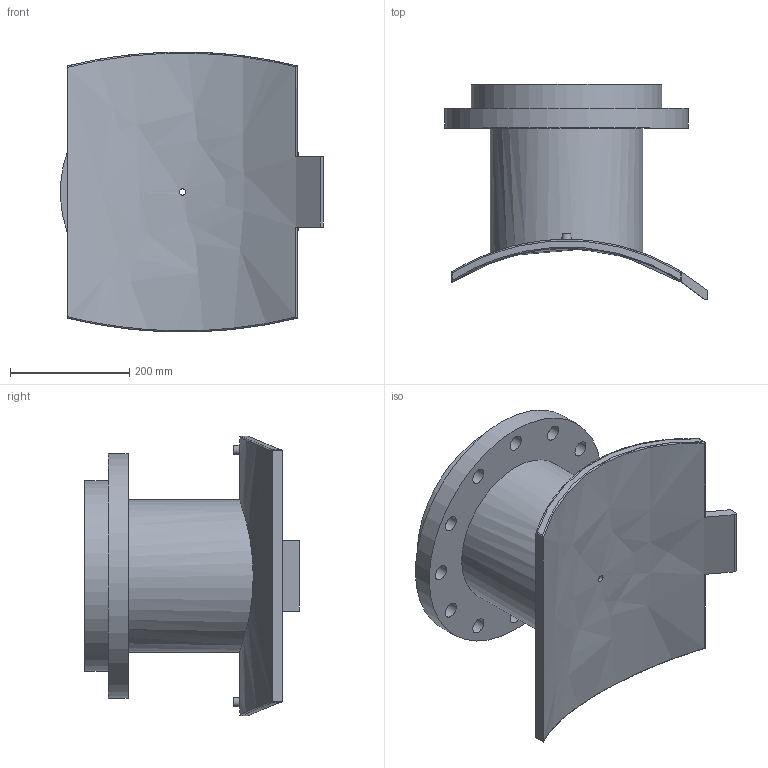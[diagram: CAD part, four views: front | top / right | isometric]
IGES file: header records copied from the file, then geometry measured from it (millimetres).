
Global section: file name: 495903710250T; native system: Autodesk Inventor 2019; preprocessor: unknown; author: KIM; date: 20240403.210354; units: millimetre
Bounding box: 441.18 x 360.45 x 469.56 mm (x, y, z)
Volume: 11556887.6 mm3; surface area: 1021226.1 mm2
Topology: 1 solids, 1 shells, 62 faces, 163 edges, 126 vertices
Faces by surface type: bspline 62
